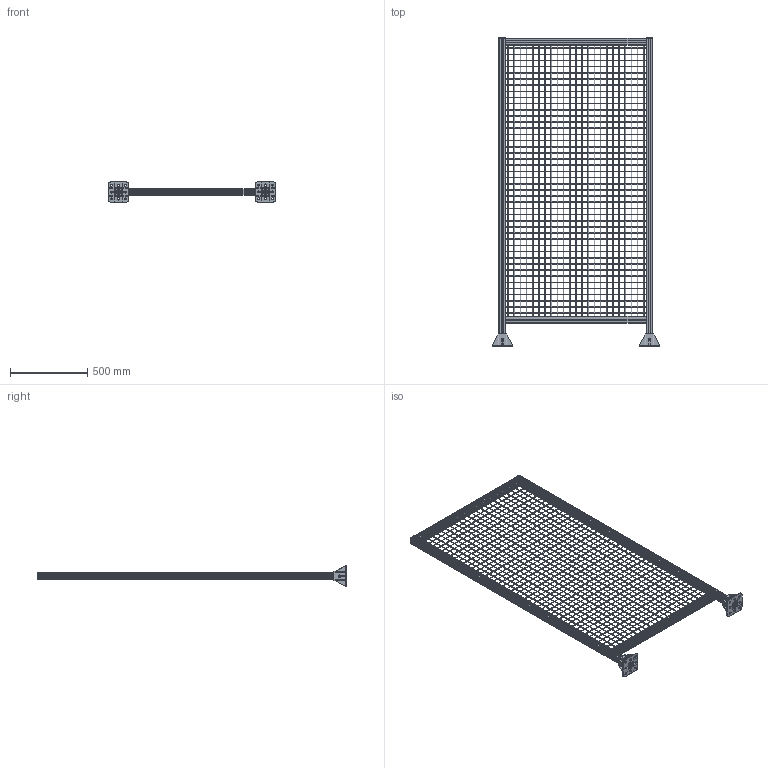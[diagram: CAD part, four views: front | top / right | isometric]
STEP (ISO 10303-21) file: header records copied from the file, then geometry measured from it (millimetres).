
FILE_DESCRIPTION (( 'STEP AP214' ), '1' );
FILE_NAME ('5.0005 Laitesuojan seinäelementti 1000X2000 mm hopea.STEP', '2026-03-02T13:43:25', ( '' ), ( '' ), 'SwSTEP 2.0', 'SolidWorks 2025', '' );
FILE_SCHEMA (( 'AUTOMOTIVE_DESIGN' ));
Length unit declared in the file: millimetre
Products named in the file (1): 5.0005 Laitesuojan seinäelementti 1000X2000 mm hopea
Bounding box: 1090 x 2003 x 135 mm (x, y, z)
Volume: 4762447 mm3; surface area: 4738092.9 mm2
Topology: 99 solids, 99 shells, 2300 faces, 5994 edges, 3900 vertices
Faces by surface type: plane 1264, cylinder 746, bspline 178, cone 72, torus 40
Entity records: 103135 total; most frequent: CARTESIAN_POINT 20277, ORIENTED_EDGE 11956, DIRECTION 11392, EDGE_CURVE 5978, VERTEX_POINT 3900, VECTOR 3810, LINE 3810, AXIS2_PLACEMENT_3D 3791
